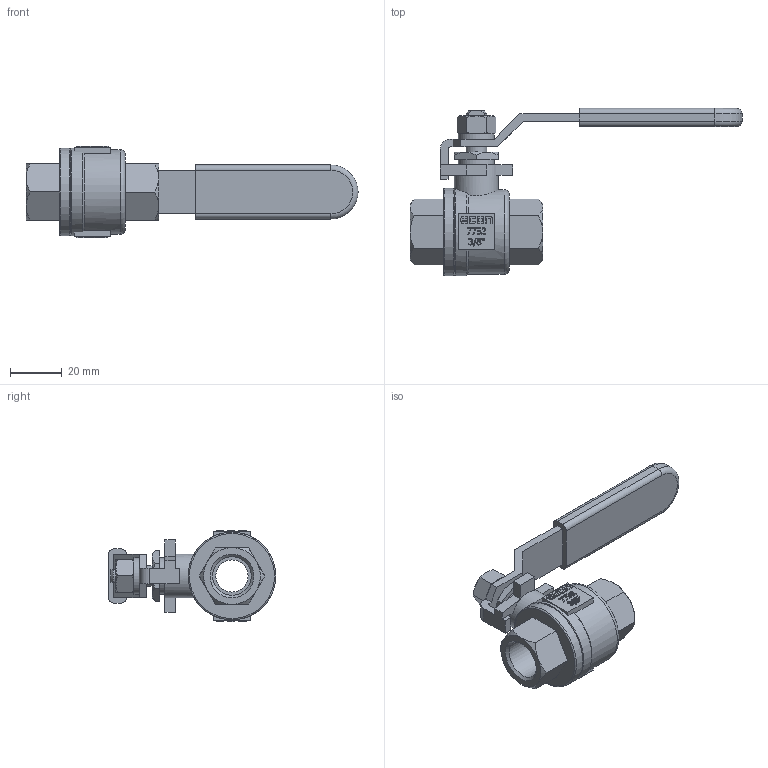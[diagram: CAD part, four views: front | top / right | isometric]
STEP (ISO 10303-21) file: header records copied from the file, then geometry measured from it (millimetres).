
FILE_DESCRIPTION(/* description */ ('Eriks item no: 12427450'),/* implementation_level */ '2;1');
FILE_NAME(/* name */ '7752-DN10-FB-1000PSI-BSPP.stp',/* time_stamp */ '2024-02-16T16:31:30+01:00',/* author */ ('roger.thijssen'),/* organization */ (''),/* preprocessor_version */ 'ST-DEVELOPER v19.2',/* originating_system */ 'Autodesk Inventor 2024',/* authorisation */ '');
FILE_SCHEMA (('AUTOMOTIVE_DESIGN { 1 0 10303 214 3 1 1 }'));
Length unit declared in the file: millimetre
Products named in the file (1): Ball valve, 7752-DN10-FB-1000PSI-BSPP
Bounding box: 128.75 x 65 x 35.4 mm (x, y, z)
Volume: 42652.1 mm3; surface area: 16152.4 mm2
Topology: 1 solids, 1 shells, 1169 faces, 3203 edges, 2120 vertices
Faces by surface type: plane 898, bspline 163, cylinder 65, cone 39, torus 4
Full cylindrical faces by diameter (mm): 8 x2, 12.5 x1, 14 x2, 14.95 x2, 17 x1, 32.8 x1, 34 x1
Entity records: 39113 total; most frequent: CARTESIAN_POINT 9337, ORIENTED_EDGE 6406, DIRECTION 5004, EDGE_CURVE 3203, LINE 2614, VECTOR 2614, VERTEX_POINT 2120, EDGE_LOOP 1259
